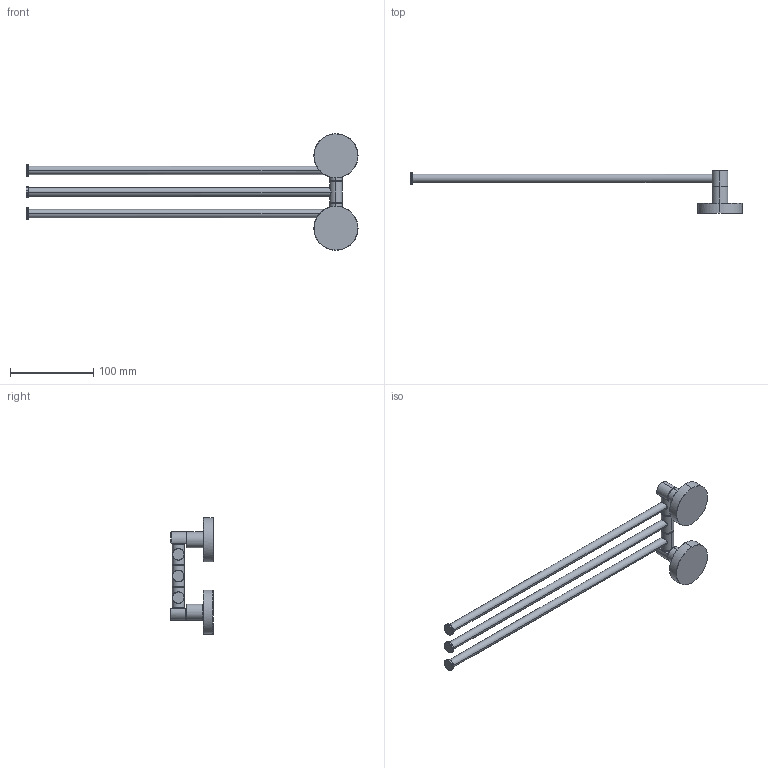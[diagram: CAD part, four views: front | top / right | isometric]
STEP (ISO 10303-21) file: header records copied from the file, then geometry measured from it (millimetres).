
FILE_DESCRIPTION(('THIS FILE CONTAINS SOME STEP INSTANCES'),'1');
FILE_NAME('HAR 024-light.stp','2015-10-28T 7:14:49',('UNDEFINED'),('UNDEFINED'),'T-FLEX CAD STEP converter','T-FLEX CAD','');
FILE_SCHEMA(('CONFIG_CONTROL_DESIGN'));
Length unit declared in the file: metre
Products named in the file (5): har_024-01; har_024-02; har_024-03; har_024-04; har_024
Bounding box: 399 x 51.25 x 140 mm (x, y, z)
Volume: 173074.5 mm3; surface area: 56962.1 mm2
Topology: 5 solids, 5 shells, 151 faces, 316 edges, 187 vertices
Faces by surface type: cone 65, cylinder 42, plane 38, bspline 6
Entity records: 7065 total; most frequent: CARTESIAN_POINT 4242, ORIENTED_EDGE 632, DIRECTION 477, EDGE_CURVE 316, VERTEX_POINT 187, AXIS2_PLACEMENT_3D 175, EDGE_LOOP 163, ADVANCED_FACE 151
